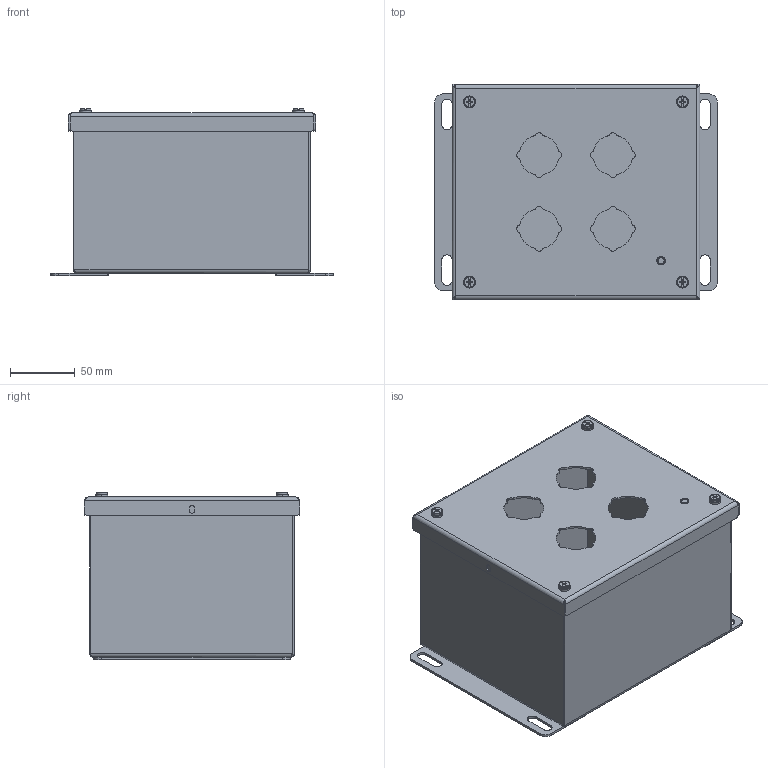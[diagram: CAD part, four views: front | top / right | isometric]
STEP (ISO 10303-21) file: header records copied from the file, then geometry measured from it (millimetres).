
FILE_DESCRIPTION((''),'2;1');
FILE_NAME('MODEL-335_ASM','2025-09-12T16:14:56',('richards'),('SAGINAW CONTROL & ENGINEERING'),'CREO PARAMETRIC BY PTC INC, 2021284','CREO PARAMETRIC BY PTC INC, 2021284','');
FILE_SCHEMA(('AUTOMOTIVE_DESIGN { 1 0 10303 214 1 1 1 1 }'));
Length unit declared in the file: inch
Products named in the file (10): MODEL-335-BDY; MODEL-335-DR; 100063; 102155; 101966; 100009; 100983; 102534; MODEL-335-GSKT; MODEL-335_ASM
Assembly tree (16 placements, depth 2):
  MODEL-335_ASM
    MODEL-335-BDY
    MODEL-335-DR
    100063
    102155  x2
    101966
    100009
    100983  x4
    102534  x4
    MODEL-335-GSKT
Bounding box: 219.07 x 166.69 x 130.14 mm (x, y, z)
Volume: 273713.6 mm3; surface area: 358097.4 mm2
Topology: 19 solids, 19 shells, 770 faces, 1923 edges, 1138 vertices
Faces by surface type: cylinder 286, plane 276, bspline 100, torus 80, cone 28
Entity records: 22565 total; most frequent: CARTESIAN_POINT 5939, DIRECTION 2395, ORIENTED_EDGE 2294, EDGE_CURVE 1147, PRESENTATION_STYLE_ASSIGNMENT 1059, STYLED_ITEM 1059, CURVE_STYLE 983, AXIS2_PLACEMENT_3D 881
